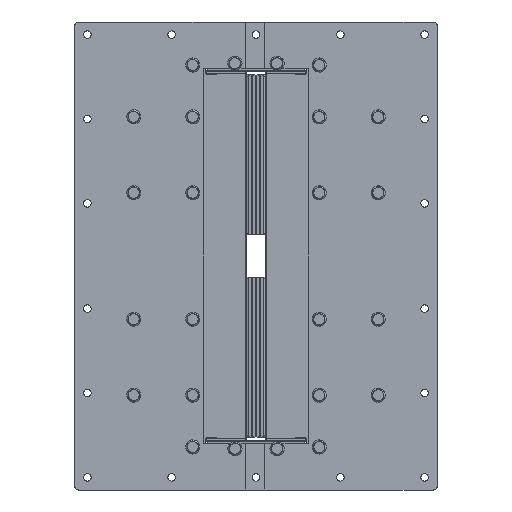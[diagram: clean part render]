
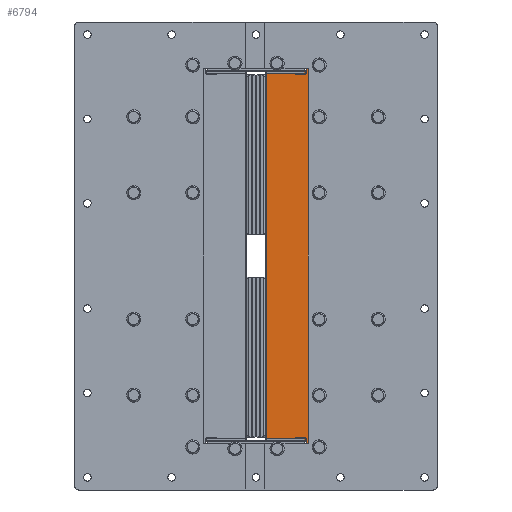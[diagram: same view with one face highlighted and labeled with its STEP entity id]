
A CAD part, left-side view. The second image highlights one B-rep face of the part: STEP entity #6794.
In plain terms, the highlighted planar face has unit normal (-1, 0, 0).
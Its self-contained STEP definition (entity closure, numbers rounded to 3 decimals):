
#5860=AXIS2_PLACEMENT_3D('Plane Axis2P3D',#5857,#5858,#5859) ;
#5994=AXIS2_PLACEMENT_3D('Circle Axis2P3D',#5992,#5993,$) ;
#6056=AXIS2_PLACEMENT_3D('Circle Axis2P3D',#6054,#6055,$) ;
#6332=AXIS2_PLACEMENT_3D('Circle Axis2P3D',#6330,#6331,$) ;
#6380=AXIS2_PLACEMENT_3D('Circle Axis2P3D',#6378,#6379,$) ;
#6688=AXIS2_PLACEMENT_3D('Circle Axis2P3D',#6686,#6687,$) ;
#6697=AXIS2_PLACEMENT_3D('Circle Axis2P3D',#6695,#6696,$) ;
#6706=AXIS2_PLACEMENT_3D('Circle Axis2P3D',#6704,#6705,$) ;
#6715=AXIS2_PLACEMENT_3D('Circle Axis2P3D',#6713,#6714,$) ;
#6724=AXIS2_PLACEMENT_3D('Circle Axis2P3D',#6722,#6723,$) ;
#6733=AXIS2_PLACEMENT_3D('Circle Axis2P3D',#6731,#6732,$) ;
#6742=AXIS2_PLACEMENT_3D('Circle Axis2P3D',#6740,#6741,$) ;
#6751=AXIS2_PLACEMENT_3D('Circle Axis2P3D',#6749,#6750,$) ;
#6760=AXIS2_PLACEMENT_3D('Circle Axis2P3D',#6758,#6759,$) ;
#6769=AXIS2_PLACEMENT_3D('Circle Axis2P3D',#6767,#6768,$) ;
#6778=AXIS2_PLACEMENT_3D('Circle Axis2P3D',#6776,#6777,$) ;
#6787=AXIS2_PLACEMENT_3D('Circle Axis2P3D',#6785,#6786,$) ;
#5857=CARTESIAN_POINT('Axis2P3D Location',(0.,0.,0.)) ;
#5898=CARTESIAN_POINT('Vertex',(0.,-60.,218.5)) ;
#5903=CARTESIAN_POINT('Line Origine',(0.,-60.,229.25)) ;
#5907=CARTESIAN_POINT('Vertex',(0.,-60.,240.)) ;
#5961=CARTESIAN_POINT('Line Origine',(0.,-69.,240.)) ;
#5965=CARTESIAN_POINT('Vertex',(0.,-78.,240.)) ;
#5992=CARTESIAN_POINT('Axis2P3D Location',(0.,-78.,235.)) ;
#5996=CARTESIAN_POINT('Vertex',(0.,-83.,235.)) ;
#6023=CARTESIAN_POINT('Line Origine',(0.,-83.,0.)) ;
#6027=CARTESIAN_POINT('Vertex',(0.,-83.,-235.)) ;
#6054=CARTESIAN_POINT('Axis2P3D Location',(0.,-78.,-235.)) ;
#6058=CARTESIAN_POINT('Vertex',(0.,-78.,-240.)) ;
#6085=CARTESIAN_POINT('Line Origine',(0.,-69.,-240.)) ;
#6089=CARTESIAN_POINT('Vertex',(0.,-60.,-240.)) ;
#6111=CARTESIAN_POINT('Line Origine',(0.,-60.,-229.25)) ;
#6115=CARTESIAN_POINT('Vertex',(0.,-60.,-218.5)) ;
#6155=CARTESIAN_POINT('Vertex',(0.,-57.5,217.)) ;
#6158=CARTESIAN_POINT('Line Origine',(0.,-57.5,217.75)) ;
#6162=CARTESIAN_POINT('Vertex',(0.,-57.5,218.5)) ;
#6193=CARTESIAN_POINT('Vertex',(0.,-13.22,217.)) ;
#6196=CARTESIAN_POINT('Line Origine',(0.,-35.36,217.)) ;
#6327=CARTESIAN_POINT('Vertex',(0.,-12.72,216.5)) ;
#6330=CARTESIAN_POINT('Axis2P3D Location',(0.,-13.22,216.5)) ;
#6351=CARTESIAN_POINT('Vertex',(0.,-12.72,-216.5)) ;
#6354=CARTESIAN_POINT('Line Origine',(0.,-12.72,0.)) ;
#6375=CARTESIAN_POINT('Vertex',(0.,-13.22,-217.)) ;
#6378=CARTESIAN_POINT('Axis2P3D Location',(0.,-13.22,-216.5)) ;
#6399=CARTESIAN_POINT('Vertex',(0.,-57.5,-217.)) ;
#6402=CARTESIAN_POINT('Line Origine',(0.,-35.36,-217.)) ;
#6418=CARTESIAN_POINT('Vertex',(0.,-57.5,-218.5)) ;
#6421=CARTESIAN_POINT('Line Origine',(0.,-57.5,-217.75)) ;
#6460=CARTESIAN_POINT('Line Origine',(0.,-58.75,-218.5)) ;
#6521=CARTESIAN_POINT('Line Origine',(0.,-58.75,218.5)) ;
#6686=CARTESIAN_POINT('Axis2P3D Location',(0.,-75.,165.)) ;
#6690=CARTESIAN_POINT('Vertex',(0.,-79.5,165.)) ;
#6692=CARTESIAN_POINT('Vertex',(0.,-70.5,165.)) ;
#6695=CARTESIAN_POINT('Axis2P3D Location',(0.,-75.,165.)) ;
#6704=CARTESIAN_POINT('Axis2P3D Location',(0.,-75.,75.)) ;
#6708=CARTESIAN_POINT('Vertex',(0.,-79.5,75.)) ;
#6710=CARTESIAN_POINT('Vertex',(0.,-70.5,75.)) ;
#6713=CARTESIAN_POINT('Axis2P3D Location',(0.,-75.,75.)) ;
#6722=CARTESIAN_POINT('Axis2P3D Location',(0.,-75.,-75.)) ;
#6726=CARTESIAN_POINT('Vertex',(0.,-79.5,-75.)) ;
#6728=CARTESIAN_POINT('Vertex',(0.,-70.5,-75.)) ;
#6731=CARTESIAN_POINT('Axis2P3D Location',(0.,-75.,-75.)) ;
#6740=CARTESIAN_POINT('Axis2P3D Location',(0.,-75.,-165.)) ;
#6744=CARTESIAN_POINT('Vertex',(0.,-79.5,-165.)) ;
#6746=CARTESIAN_POINT('Vertex',(0.,-70.5,-165.)) ;
#6749=CARTESIAN_POINT('Axis2P3D Location',(0.,-75.,-165.)) ;
#6758=CARTESIAN_POINT('Axis2P3D Location',(0.,-75.,226.5)) ;
#6762=CARTESIAN_POINT('Vertex',(0.,-79.5,226.5)) ;
#6764=CARTESIAN_POINT('Vertex',(0.,-70.5,226.5)) ;
#6767=CARTESIAN_POINT('Axis2P3D Location',(0.,-75.,226.5)) ;
#6776=CARTESIAN_POINT('Axis2P3D Location',(0.,-75.,-226.5)) ;
#6780=CARTESIAN_POINT('Vertex',(0.,-79.5,-226.5)) ;
#6782=CARTESIAN_POINT('Vertex',(0.,-70.5,-226.5)) ;
#6785=CARTESIAN_POINT('Axis2P3D Location',(0.,-75.,-226.5)) ;
#5858=DIRECTION('Axis2P3D Direction',(1.,0.,0.)) ;
#5859=DIRECTION('Axis2P3D XDirection',(0.,1.,0.)) ;
#5904=DIRECTION('Vector Direction',(0.,0.,-1.)) ;
#5962=DIRECTION('Vector Direction',(0.,-1.,0.)) ;
#5993=DIRECTION('Axis2P3D Direction',(1.,0.,0.)) ;
#6024=DIRECTION('Vector Direction',(0.,0.,1.)) ;
#6055=DIRECTION('Axis2P3D Direction',(1.,0.,0.)) ;
#6086=DIRECTION('Vector Direction',(0.,1.,0.)) ;
#6112=DIRECTION('Vector Direction',(0.,0.,-1.)) ;
#6159=DIRECTION('Vector Direction',(0.,0.,-1.)) ;
#6197=DIRECTION('Vector Direction',(0.,1.,0.)) ;
#6331=DIRECTION('Axis2P3D Direction',(1.,0.,0.)) ;
#6355=DIRECTION('Vector Direction',(0.,0.,1.)) ;
#6379=DIRECTION('Axis2P3D Direction',(1.,0.,0.)) ;
#6403=DIRECTION('Vector Direction',(0.,-1.,0.)) ;
#6422=DIRECTION('Vector Direction',(0.,0.,-1.)) ;
#6461=DIRECTION('Vector Direction',(0.,1.,0.)) ;
#6522=DIRECTION('Vector Direction',(0.,-1.,0.)) ;
#6687=DIRECTION('Axis2P3D Direction',(1.,0.,0.)) ;
#6696=DIRECTION('Axis2P3D Direction',(1.,0.,0.)) ;
#6705=DIRECTION('Axis2P3D Direction',(1.,0.,0.)) ;
#6714=DIRECTION('Axis2P3D Direction',(1.,0.,0.)) ;
#6723=DIRECTION('Axis2P3D Direction',(1.,0.,0.)) ;
#6732=DIRECTION('Axis2P3D Direction',(1.,0.,0.)) ;
#6741=DIRECTION('Axis2P3D Direction',(1.,0.,0.)) ;
#6750=DIRECTION('Axis2P3D Direction',(1.,0.,0.)) ;
#6759=DIRECTION('Axis2P3D Direction',(1.,0.,0.)) ;
#6768=DIRECTION('Axis2P3D Direction',(1.,0.,0.)) ;
#6777=DIRECTION('Axis2P3D Direction',(1.,0.,0.)) ;
#6786=DIRECTION('Axis2P3D Direction',(1.,0.,0.)) ;
#5905=VECTOR('Line Direction',#5904,1.) ;
#5963=VECTOR('Line Direction',#5962,1.) ;
#6025=VECTOR('Line Direction',#6024,1.) ;
#6087=VECTOR('Line Direction',#6086,1.) ;
#6113=VECTOR('Line Direction',#6112,1.) ;
#6160=VECTOR('Line Direction',#6159,1.) ;
#6198=VECTOR('Line Direction',#6197,1.) ;
#6356=VECTOR('Line Direction',#6355,1.) ;
#6404=VECTOR('Line Direction',#6403,1.) ;
#6423=VECTOR('Line Direction',#6422,1.) ;
#6462=VECTOR('Line Direction',#6461,1.) ;
#6523=VECTOR('Line Direction',#6522,1.) ;
#6669=ORIENTED_EDGE('',*,*,#6164,.T.) ;
#6670=ORIENTED_EDGE('',*,*,#6200,.T.) ;
#6671=ORIENTED_EDGE('',*,*,#6334,.T.) ;
#6672=ORIENTED_EDGE('',*,*,#6358,.T.) ;
#6673=ORIENTED_EDGE('',*,*,#6382,.T.) ;
#6674=ORIENTED_EDGE('',*,*,#6406,.T.) ;
#6675=ORIENTED_EDGE('',*,*,#6425,.T.) ;
#6676=ORIENTED_EDGE('',*,*,#6464,.F.) ;
#6677=ORIENTED_EDGE('',*,*,#6117,.F.) ;
#6678=ORIENTED_EDGE('',*,*,#6091,.F.) ;
#6679=ORIENTED_EDGE('',*,*,#6060,.F.) ;
#6680=ORIENTED_EDGE('',*,*,#6029,.F.) ;
#6681=ORIENTED_EDGE('',*,*,#5998,.F.) ;
#6682=ORIENTED_EDGE('',*,*,#5967,.F.) ;
#6683=ORIENTED_EDGE('',*,*,#5909,.F.) ;
#6684=ORIENTED_EDGE('',*,*,#6525,.F.) ;
#6701=ORIENTED_EDGE('',*,*,#6694,.T.) ;
#6702=ORIENTED_EDGE('',*,*,#6699,.T.) ;
#6719=ORIENTED_EDGE('',*,*,#6712,.T.) ;
#6720=ORIENTED_EDGE('',*,*,#6717,.T.) ;
#6737=ORIENTED_EDGE('',*,*,#6730,.T.) ;
#6738=ORIENTED_EDGE('',*,*,#6735,.T.) ;
#6755=ORIENTED_EDGE('',*,*,#6748,.T.) ;
#6756=ORIENTED_EDGE('',*,*,#6753,.T.) ;
#6773=ORIENTED_EDGE('',*,*,#6766,.T.) ;
#6774=ORIENTED_EDGE('',*,*,#6771,.T.) ;
#6791=ORIENTED_EDGE('',*,*,#6784,.T.) ;
#6792=ORIENTED_EDGE('',*,*,#6789,.T.) ;
#6703=FACE_BOUND('',#6700,.T.) ;
#6721=FACE_BOUND('',#6718,.T.) ;
#6739=FACE_BOUND('',#6736,.T.) ;
#6757=FACE_BOUND('',#6754,.T.) ;
#6775=FACE_BOUND('',#6772,.T.) ;
#6793=FACE_BOUND('',#6790,.T.) ;
#6794=ADVANCED_FACE('Laterale(L3)',(#6685,#6703,#6721,#6739,#6757,#6775,#6793),#5861,.F.) ;
#5995=CIRCLE('generated circle',#5994,5.) ;
#6057=CIRCLE('generated circle',#6056,5.) ;
#6333=CIRCLE('generated circle',#6332,0.5) ;
#6381=CIRCLE('generated circle',#6380,0.5) ;
#6689=CIRCLE('generated circle',#6688,4.5) ;
#6698=CIRCLE('generated circle',#6697,4.5) ;
#6707=CIRCLE('generated circle',#6706,4.5) ;
#6716=CIRCLE('generated circle',#6715,4.5) ;
#6725=CIRCLE('generated circle',#6724,4.5) ;
#6734=CIRCLE('generated circle',#6733,4.5) ;
#6743=CIRCLE('generated circle',#6742,4.5) ;
#6752=CIRCLE('generated circle',#6751,4.5) ;
#6761=CIRCLE('generated circle',#6760,4.5) ;
#6770=CIRCLE('generated circle',#6769,4.5) ;
#6779=CIRCLE('generated circle',#6778,4.5) ;
#6788=CIRCLE('generated circle',#6787,4.5) ;
#5909=EDGE_CURVE('',#5899,#5908,#5906,.F.) ;
#5967=EDGE_CURVE('',#5908,#5966,#5964,.T.) ;
#5998=EDGE_CURVE('',#5966,#5997,#5995,.T.) ;
#6029=EDGE_CURVE('',#5997,#6028,#6026,.F.) ;
#6060=EDGE_CURVE('',#6028,#6059,#6057,.T.) ;
#6091=EDGE_CURVE('',#6059,#6090,#6088,.T.) ;
#6117=EDGE_CURVE('',#6090,#6116,#6114,.F.) ;
#6164=EDGE_CURVE('',#6163,#6156,#6161,.T.) ;
#6200=EDGE_CURVE('',#6156,#6194,#6199,.T.) ;
#6334=EDGE_CURVE('',#6194,#6328,#6333,.F.) ;
#6358=EDGE_CURVE('',#6328,#6352,#6357,.F.) ;
#6382=EDGE_CURVE('',#6352,#6376,#6381,.F.) ;
#6406=EDGE_CURVE('',#6376,#6400,#6405,.T.) ;
#6425=EDGE_CURVE('',#6400,#6419,#6424,.T.) ;
#6464=EDGE_CURVE('',#6116,#6419,#6463,.T.) ;
#6525=EDGE_CURVE('',#6163,#5899,#6524,.T.) ;
#6694=EDGE_CURVE('',#6691,#6693,#6689,.T.) ;
#6699=EDGE_CURVE('',#6693,#6691,#6698,.T.) ;
#6712=EDGE_CURVE('',#6709,#6711,#6707,.T.) ;
#6717=EDGE_CURVE('',#6711,#6709,#6716,.T.) ;
#6730=EDGE_CURVE('',#6727,#6729,#6725,.T.) ;
#6735=EDGE_CURVE('',#6729,#6727,#6734,.T.) ;
#6748=EDGE_CURVE('',#6745,#6747,#6743,.T.) ;
#6753=EDGE_CURVE('',#6747,#6745,#6752,.T.) ;
#6766=EDGE_CURVE('',#6763,#6765,#6761,.T.) ;
#6771=EDGE_CURVE('',#6765,#6763,#6770,.T.) ;
#6784=EDGE_CURVE('',#6781,#6783,#6779,.T.) ;
#6789=EDGE_CURVE('',#6783,#6781,#6788,.T.) ;
#6668=EDGE_LOOP('',(#6669,#6670,#6671,#6672,#6673,#6674,#6675,#6676,#6677,#6678,#6679,#6680,#6681,#6682,#6683,#6684)) ;
#6700=EDGE_LOOP('',(#6701,#6702)) ;
#6718=EDGE_LOOP('',(#6719,#6720)) ;
#6736=EDGE_LOOP('',(#6737,#6738)) ;
#6754=EDGE_LOOP('',(#6755,#6756)) ;
#6772=EDGE_LOOP('',(#6773,#6774)) ;
#6790=EDGE_LOOP('',(#6791,#6792)) ;
#6685=FACE_OUTER_BOUND('',#6668,.T.) ;
#5906=LINE('Line',#5903,#5905) ;
#5964=LINE('Line',#5961,#5963) ;
#6026=LINE('Line',#6023,#6025) ;
#6088=LINE('Line',#6085,#6087) ;
#6114=LINE('Line',#6111,#6113) ;
#6161=LINE('Line',#6158,#6160) ;
#6199=LINE('Line',#6196,#6198) ;
#6357=LINE('Line',#6354,#6356) ;
#6405=LINE('Line',#6402,#6404) ;
#6424=LINE('Line',#6421,#6423) ;
#6463=LINE('Line',#6460,#6462) ;
#6524=LINE('Line',#6521,#6523) ;
#5861=PLANE('',#5860) ;
#5899=VERTEX_POINT('',#5898) ;
#5908=VERTEX_POINT('',#5907) ;
#5966=VERTEX_POINT('',#5965) ;
#5997=VERTEX_POINT('',#5996) ;
#6028=VERTEX_POINT('',#6027) ;
#6059=VERTEX_POINT('',#6058) ;
#6090=VERTEX_POINT('',#6089) ;
#6116=VERTEX_POINT('',#6115) ;
#6156=VERTEX_POINT('',#6155) ;
#6163=VERTEX_POINT('',#6162) ;
#6194=VERTEX_POINT('',#6193) ;
#6328=VERTEX_POINT('',#6327) ;
#6352=VERTEX_POINT('',#6351) ;
#6376=VERTEX_POINT('',#6375) ;
#6400=VERTEX_POINT('',#6399) ;
#6419=VERTEX_POINT('',#6418) ;
#6691=VERTEX_POINT('',#6690) ;
#6693=VERTEX_POINT('',#6692) ;
#6709=VERTEX_POINT('',#6708) ;
#6711=VERTEX_POINT('',#6710) ;
#6727=VERTEX_POINT('',#6726) ;
#6729=VERTEX_POINT('',#6728) ;
#6745=VERTEX_POINT('',#6744) ;
#6747=VERTEX_POINT('',#6746) ;
#6763=VERTEX_POINT('',#6762) ;
#6765=VERTEX_POINT('',#6764) ;
#6781=VERTEX_POINT('',#6780) ;
#6783=VERTEX_POINT('',#6782) ;
